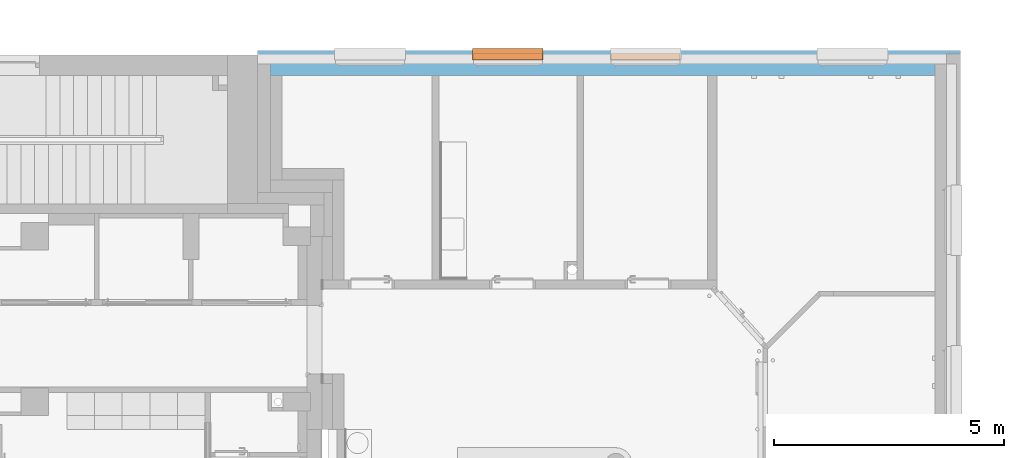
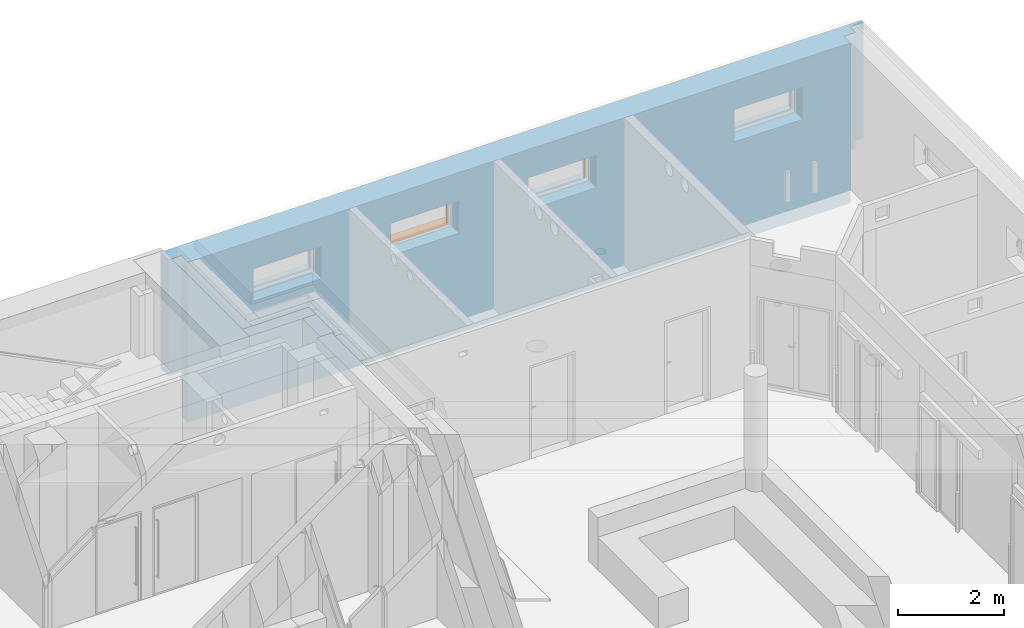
# One storey, part 123 of 140: 3 proxies, 4 openings, plus 1 element that does not belong to this part.
"""IFC4 building model written with IfcOpenShell, lengths in metres."""

from ifc_helpers import new_model, entity, si_unit, converted_unit, derived_unit, frame, origin, origin_with_axes, place, context, subcontext, project, spatial, polyline, outline, extrude, clip, bounded_halfspace, faceted_brep, source, transform, mapped, material, layer, layer_set, layer_usage, element, fill, save


model = new_model("IFC4")

# Units and contexts
model_context = context("Model", 3, precision=1e-05, world=origin())
body_context = subcontext(model_context, "Body", "Model", "MODEL_VIEW")
ifc_project = project(units=[si_unit("LENGTHUNIT", "METRE"), si_unit("AREAUNIT", "SQUARE_METRE"), si_unit("VOLUMEUNIT", "CUBIC_METRE"), si_unit("MASSUNIT", "GRAM", prefix="KILO"), converted_unit("PLANEANGLEUNIT", "DEGREE", entity("IfcPlaneAngleMeasure", 0.0174532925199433), si_unit("PLANEANGLEUNIT", "RADIAN"), dimensions=[0, 0, 0, 0, 0, 0, 0]), derived_unit("THERMALTRANSMITTANCEUNIT", [(si_unit("POWERUNIT", "WATT"), 1), (si_unit("THERMODYNAMICTEMPERATUREUNIT", "KELVIN"), -1), (si_unit("LENGTHUNIT", "METRE"), -2)]), derived_unit("VOLUMETRICFLOWRATEUNIT", [(si_unit("LENGTHUNIT", "METRE"), 3), (converted_unit("TIMEUNIT", "hour", entity("IfcTimeMeasure", 3600.0), si_unit("TIMEUNIT", "SECOND"), dimensions=[0, 0, 1, 0, 0, 0, 0]), -1), (si_unit("LENGTHUNIT", "METRE"), -1)])], contexts=[model_context])

# Site, building, storey
site_placement = place(None, origin())
site = spatial("IfcSite", under=ifc_project, at=site_placement, Name="3. ASŘ", CompositionType="ELEMENT")
building_placement = place(site_placement, origin())
building = spatial("IfcBuilding", under=site, at=building_placement, Name="Pavilon C", CompositionType="ELEMENT")
storey_placement = place(building_placement, origin())
storey = spatial("IfcBuildingStorey", under=building, at=storey_placement, Name="Půdorys 1.NP", CompositionType="ELEMENT", Elevation=0.0)

# Wall, openings, proxies
ifc_material_1 = material(Name="ZELEZOBETONOVÁ KCE")
ifc_layer_1 = layer(ifc_material_1, 0.25)
ifc_material_2 = material(Name="MINERÁLNÍ VATA")
ifc_layer_2 = layer(ifc_material_2, 0.3)
ifc_layer_set = layer_set([ifc_layer_1, ifc_layer_2])
ifc_layer_usage = layer_usage(ifc_layer_set, "AXIS2", "POSITIVE", 0.0)
wall_placement = place(storey_placement, frame((49.08, 32.3, -0.3)))
wall = element("IfcWall", 1, at=wall_placement, inside=storey, material=ifc_layer_usage, Name="ZELEZOBETONOVÁ KCE", context=body_context, shape_type="Clipping", body=[
    clip(extrude(outline(polyline([(0.280000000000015, 0.0), (14.75, 0.0), (14.75, 0.25), (15.0, 0.25), (15.0, 0.47), (15.3, 0.47), (15.3, 0.55), (0.0, 0.55), (0.0, 0.25), (0.280000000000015, 0.25), (0.280000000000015, 0.0)])), frame((-0.280000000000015, 0.0, 0.0), z_axis=(0.0, 0.0, 1.0), x_axis=(1.0, 0.0, 0.0)), (0.0, 0.0, 1.0), 3.7), bounded_halfspace(frame((9.17374999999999, 0.380000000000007, 1.02), z_axis=(0.0, 0.0, 1.0), x_axis=(0.0, -1.0, 0.0)), True, origin_with_axes(), polyline([(-0.280000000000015, 0.55), (-0.280000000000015, 0.250000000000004), (7.27595761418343e-15, 0.25), (14.47, 0.25), (14.72, 0.250000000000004), (14.72, 0.47), (15.02, 0.47), (15.02, 0.55), (-0.280000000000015, 0.55)]))),
])
opening_1_placement = place(wall_placement, frame((13.42, 0.25, 2.3), z_axis=(0.0, -1.0, 0.0), x_axis=(0.0, 0.0, 1.0)))
element("IfcOpeningElement", 2, at=opening_1_placement, cuts=wall, Name="Okenní otvor", ObjectType="Opening", context=body_context, shape_type="SweptSolid", body=[
    extrude(outline(polyline([(0.0, 1.5), (0.75, 1.5), (0.75, 0.0), (0.0, 0.0), (0.0, 1.5)])), origin_with_axes(), (0.0, 0.0, 1.0), 0.25),
    extrude(outline(polyline([(0.0, 1.5), (0.75, 1.5), (0.75, 0.0), (0.0, 0.0), (0.0, 1.5)])), frame((0.0, 0.0, -0.3), z_axis=(0.0, 0.0, 1.0), x_axis=(1.0, 0.0, 0.0)), (0.0, 0.0, 1.0), 0.3),
])
opening_2_placement = place(wall_placement, frame((8.92, 0.25, 2.3), z_axis=(0.0, -1.0, 0.0), x_axis=(0.0, 0.0, 1.0)))
opening_2 = element("IfcOpeningElement", 3, at=opening_2_placement, cuts=wall, Name="Okenní otvor", ObjectType="Opening", context=body_context, shape_type="SweptSolid", body=[
    extrude(outline(polyline([(0.0, 1.5), (0.75, 1.5), (0.75, 0.0), (0.0, 0.0), (0.0, 1.5)])), origin_with_axes(), (0.0, 0.0, 1.0), 0.25),
    extrude(outline(polyline([(0.0, 1.5), (0.75, 1.5), (0.75, 0.0), (0.0, 0.0), (0.0, 1.5)])), frame((0.0, 0.0, -0.3), z_axis=(0.0, 0.0, 1.0), x_axis=(1.0, 0.0, 0.0)), (0.0, 0.0, 1.0), 0.3),
])
opening_3_placement = place(wall_placement, frame((5.92, 0.25, 2.3), z_axis=(0.0, -1.0, 0.0), x_axis=(0.0, 0.0, 1.0)))
opening_3 = element("IfcOpeningElement", 4, at=opening_3_placement, cuts=wall, Name="Okenní otvor", ObjectType="Opening", context=body_context, shape_type="SweptSolid", body=[
    extrude(outline(polyline([(0.0, 1.5), (0.75, 1.5), (0.75, 0.0), (0.0, 0.0), (0.0, 1.5)])), origin_with_axes(), (0.0, 0.0, 1.0), 0.25),
    extrude(outline(polyline([(0.0, 1.5), (0.75, 1.5), (0.75, 0.0), (0.0, 0.0), (0.0, 1.5)])), frame((0.0, 0.0, -0.3), z_axis=(0.0, 0.0, 1.0), x_axis=(1.0, 0.0, 0.0)), (0.0, 0.0, 1.0), 0.3),
])
opening_4_placement = place(wall_placement, frame((2.92, 0.25, 2.3), z_axis=(0.0, -1.0, 0.0), x_axis=(0.0, 0.0, 1.0)))
element("IfcOpeningElement", 5, at=opening_4_placement, cuts=wall, Name="Okenní otvor", ObjectType="Opening", context=body_context, shape_type="SweptSolid", body=[
    extrude(outline(polyline([(0.0, 1.5), (0.75, 1.5), (0.75, 0.0), (0.0, 0.0), (0.0, 1.5)])), origin_with_axes(), (0.0, 0.0, 1.0), 0.25),
    extrude(outline(polyline([(0.0, 1.5), (0.75, 1.5), (0.75, 0.0), (0.0, 0.0), (0.0, 1.5)])), frame((0.0, 0.0, -0.3), z_axis=(0.0, 0.0, 1.0), x_axis=(1.0, 0.0, 0.0)), (0.0, 0.0, 1.0), 0.3),
])
shared_shape_1 = source(origin_with_axes(), body_context, "Body", "Brep", [
    faceted_brep([(1.5, -0.232, 0.75), (1.5, -0.232, 0.95), (1.5, -0.092, 0.95), (1.5, -0.092, 0.75), (1.5, -0.094, 0.75), (1.5, -0.094, 0.948), (1.5, -0.23, 0.948), (1.5, -0.23, 0.75), (0.0, -0.23, 0.75), (0.0, -0.23, 0.948), (0.0, -0.094, 0.948), (0.0, -0.094, 0.75), (0.0, -0.092, 0.75), (0.0, -0.092, 0.95), (0.0, -0.232, 0.95), (0.0, -0.232, 0.75)], [[[0, 1, 2, 3, 4, 5, 6, 7]], [[8, 9, 10, 11, 12, 13, 14, 15]], [[7, 8, 15, 0]], [[6, 9, 8, 7]], [[5, 10, 9, 6]], [[4, 11, 10, 5]], [[3, 12, 11, 4]], [[2, 13, 12, 3]], [[1, 14, 13, 2]], [[0, 15, 14, 1]]], orient=[[False], [False], [False], [False], [False], [False], [False], [False], [False], [False]]),
    faceted_brep([(1.5, -0.23, 0.75), (1.5, -0.23, 0.948), (1.5, -0.094, 0.948), (1.5, -0.094, 0.75), (1.498, -0.094, 0.75), (1.498, -0.094, 0.948), (1.498, -0.23, 0.948), (1.498, -0.23, 0.75)], [[[0, 1, 2, 3]], [[4, 5, 6, 7]], [[3, 4, 7, 0]], [[2, 5, 4, 3]], [[1, 6, 5, 2]], [[0, 7, 6, 1]]], orient=[[False], [False], [False], [False], [False], [False]]),
    faceted_brep([(0.002, -0.23, 0.75), (0.002, -0.23, 0.948), (0.002, -0.094, 0.948), (0.002, -0.094, 0.75), (0.0, -0.094, 0.75), (0.0, -0.094, 0.948), (0.0, -0.23, 0.948), (0.0, -0.23, 0.75)], [[[0, 1, 2, 3]], [[4, 5, 6, 7]], [[3, 4, 7, 0]], [[2, 5, 4, 3]], [[1, 6, 5, 2]], [[0, 7, 6, 1]]], orient=[[False], [False], [False], [False], [False], [False]]),
    faceted_brep([(1.498, -0.152, 0.0), (1.458, -0.152, 0.0), (1.458, -0.172, 0.0), (1.498, -0.172, 0.0), (1.498, -0.172, 0.769), (1.458, -0.172, 0.769), (1.458, -0.152, 0.769), (1.498, -0.152, 0.769)], [[[0, 1, 2, 3]], [[4, 5, 6, 7]], [[3, 4, 7, 0]], [[2, 5, 4, 3]], [[1, 6, 5, 2]], [[0, 7, 6, 1]]], orient=[[False], [False], [False], [False], [False], [False]]),
    faceted_brep([(0.042, -0.152, 0.0), (0.002, -0.152, 0.0), (0.002, -0.172, 0.0), (0.042, -0.172, 0.0), (0.042, -0.172, 0.769), (0.002, -0.172, 0.769), (0.002, -0.152, 0.769), (0.042, -0.152, 0.769)], [[[0, 1, 2, 3]], [[4, 5, 6, 7]], [[3, 4, 7, 0]], [[2, 5, 4, 3]], [[1, 6, 5, 2]], [[0, 7, 6, 1]]], orient=[[False], [False], [False], [False], [False], [False]]),
    faceted_brep([(1.458, -0.122, 0.6021), (1.458, -0.122, 0.5871), (1.458, -0.202, 0.5871), (1.458, -0.202, 0.6021), (0.042, -0.202, 0.6021), (0.042, -0.202, 0.5871), (0.042, -0.122, 0.5871), (0.042, -0.122, 0.6021)], [[[0, 1, 2, 3]], [[4, 5, 6, 7]], [[3, 4, 7, 0]], [[2, 5, 4, 3]], [[1, 6, 5, 2]], [[0, 7, 6, 1]]], orient=[[False], [False], [False], [False], [False], [False]]),
    faceted_brep([(1.458, -0.122, 0.6031), (1.458, -0.122, 0.6021), (1.458, -0.202, 0.6021), (1.458, -0.202, 0.6031), (0.042, -0.202, 0.6031), (0.042, -0.202, 0.6021), (0.042, -0.122, 0.6021), (0.042, -0.122, 0.6031)], [[[0, 1, 2, 3]], [[4, 5, 6, 7]], [[3, 4, 7, 0]], [[2, 5, 4, 3]], [[1, 6, 5, 2]], [[0, 7, 6, 1]]], orient=[[False], [False], [False], [False], [False], [False]]),
    faceted_brep([(1.458, -0.122, 0.6041), (1.458, -0.122, 0.6031), (1.458, -0.202, 0.6031), (1.458, -0.202, 0.6041), (0.042, -0.202, 0.6041), (0.042, -0.202, 0.6031), (0.042, -0.122, 0.6031), (0.042, -0.122, 0.6041)], [[[0, 1, 2, 3]], [[4, 5, 6, 7]], [[3, 4, 7, 0]], [[2, 5, 4, 3]], [[1, 6, 5, 2]], [[0, 7, 6, 1]]], orient=[[False], [False], [False], [False], [False], [False]]),
    faceted_brep([(1.458, -0.122, 0.6051), (1.458, -0.122, 0.6041), (1.458, -0.202, 0.6041), (1.458, -0.202, 0.6051), (0.042, -0.202, 0.6051), (0.042, -0.202, 0.6041), (0.042, -0.122, 0.6041), (0.042, -0.122, 0.6051)], [[[0, 1, 2, 3]], [[4, 5, 6, 7]], [[3, 4, 7, 0]], [[2, 5, 4, 3]], [[1, 6, 5, 2]], [[0, 7, 6, 1]]], orient=[[False], [False], [False], [False], [False], [False]]),
    faceted_brep([(1.458, -0.122, 0.6061), (1.458, -0.122, 0.6051), (1.458, -0.202, 0.6051), (1.458, -0.202, 0.6061), (0.042, -0.202, 0.6061), (0.042, -0.202, 0.6051), (0.042, -0.122, 0.6051), (0.042, -0.122, 0.6061)], [[[0, 1, 2, 3]], [[4, 5, 6, 7]], [[3, 4, 7, 0]], [[2, 5, 4, 3]], [[1, 6, 5, 2]], [[0, 7, 6, 1]]], orient=[[False], [False], [False], [False], [False], [False]]),
    faceted_brep([(1.458, -0.122, 0.6071), (1.458, -0.122, 0.6061), (1.458, -0.202, 0.6061), (1.458, -0.202, 0.6071), (0.042, -0.202, 0.6071), (0.042, -0.202, 0.6061), (0.042, -0.122, 0.6061), (0.042, -0.122, 0.6071)], [[[0, 1, 2, 3]], [[4, 5, 6, 7]], [[3, 4, 7, 0]], [[2, 5, 4, 3]], [[1, 6, 5, 2]], [[0, 7, 6, 1]]], orient=[[False], [False], [False], [False], [False], [False]]),
    faceted_brep([(1.458, -0.122, 0.6081), (1.458, -0.122, 0.6071), (1.458, -0.202, 0.6071), (1.458, -0.202, 0.6081), (0.042, -0.202, 0.6081), (0.042, -0.202, 0.6071), (0.042, -0.122, 0.6071), (0.042, -0.122, 0.6081)], [[[0, 1, 2, 3]], [[4, 5, 6, 7]], [[3, 4, 7, 0]], [[2, 5, 4, 3]], [[1, 6, 5, 2]], [[0, 7, 6, 1]]], orient=[[False], [False], [False], [False], [False], [False]]),
    faceted_brep([(1.458, -0.122, 0.6091), (1.458, -0.122, 0.6081), (1.458, -0.202, 0.6081), (1.458, -0.202, 0.6091), (0.042, -0.202, 0.6091), (0.042, -0.202, 0.6081), (0.042, -0.122, 0.6081), (0.042, -0.122, 0.6091)], [[[0, 1, 2, 3]], [[4, 5, 6, 7]], [[3, 4, 7, 0]], [[2, 5, 4, 3]], [[1, 6, 5, 2]], [[0, 7, 6, 1]]], orient=[[False], [False], [False], [False], [False], [False]]),
    faceted_brep([(1.458, -0.122, 0.6101), (1.458, -0.122, 0.6091), (1.458, -0.202, 0.6091), (1.458, -0.202, 0.6101), (0.042, -0.202, 0.6101), (0.042, -0.202, 0.6091), (0.042, -0.122, 0.6091), (0.042, -0.122, 0.6101)], [[[0, 1, 2, 3]], [[4, 5, 6, 7]], [[3, 4, 7, 0]], [[2, 5, 4, 3]], [[1, 6, 5, 2]], [[0, 7, 6, 1]]], orient=[[False], [False], [False], [False], [False], [False]]),
    faceted_brep([(1.458, -0.122, 0.6111), (1.458, -0.122, 0.6101), (1.458, -0.202, 0.6101), (1.458, -0.202, 0.6111), (0.042, -0.202, 0.6111), (0.042, -0.202, 0.6101), (0.042, -0.122, 0.6101), (0.042, -0.122, 0.6111)], [[[0, 1, 2, 3]], [[4, 5, 6, 7]], [[3, 4, 7, 0]], [[2, 5, 4, 3]], [[1, 6, 5, 2]], [[0, 7, 6, 1]]], orient=[[False], [False], [False], [False], [False], [False]]),
    faceted_brep([(1.458, -0.122, 0.6121), (1.458, -0.122, 0.6111), (1.458, -0.202, 0.6111), (1.458, -0.202, 0.6121), (0.042, -0.202, 0.6121), (0.042, -0.202, 0.6111), (0.042, -0.122, 0.6111), (0.042, -0.122, 0.6121)], [[[0, 1, 2, 3]], [[4, 5, 6, 7]], [[3, 4, 7, 0]], [[2, 5, 4, 3]], [[1, 6, 5, 2]], [[0, 7, 6, 1]]], orient=[[False], [False], [False], [False], [False], [False]]),
    faceted_brep([(1.458, -0.122, 0.6131), (1.458, -0.122, 0.6121), (1.458, -0.202, 0.6121), (1.458, -0.202, 0.6131), (0.042, -0.202, 0.6131), (0.042, -0.202, 0.6121), (0.042, -0.122, 0.6121), (0.042, -0.122, 0.6131)], [[[0, 1, 2, 3]], [[4, 5, 6, 7]], [[3, 4, 7, 0]], [[2, 5, 4, 3]], [[1, 6, 5, 2]], [[0, 7, 6, 1]]], orient=[[False], [False], [False], [False], [False], [False]]),
    faceted_brep([(1.458, -0.122, 0.6141), (1.458, -0.122, 0.6131), (1.458, -0.202, 0.6131), (1.458, -0.202, 0.6141), (0.042, -0.202, 0.6141), (0.042, -0.202, 0.6131), (0.042, -0.122, 0.6131), (0.042, -0.122, 0.6141)], [[[0, 1, 2, 3]], [[4, 5, 6, 7]], [[3, 4, 7, 0]], [[2, 5, 4, 3]], [[1, 6, 5, 2]], [[0, 7, 6, 1]]], orient=[[False], [False], [False], [False], [False], [False]]),
    faceted_brep([(1.458, -0.122, 0.6151), (1.458, -0.122, 0.6141), (1.458, -0.202, 0.6141), (1.458, -0.202, 0.6151), (0.042, -0.202, 0.6151), (0.042, -0.202, 0.6141), (0.042, -0.122, 0.6141), (0.042, -0.122, 0.6151)], [[[0, 1, 2, 3]], [[4, 5, 6, 7]], [[3, 4, 7, 0]], [[2, 5, 4, 3]], [[1, 6, 5, 2]], [[0, 7, 6, 1]]], orient=[[False], [False], [False], [False], [False], [False]]),
    faceted_brep([(1.458, -0.122, 0.6161), (1.458, -0.122, 0.6151), (1.458, -0.202, 0.6151), (1.458, -0.202, 0.6161), (0.042, -0.202, 0.6161), (0.042, -0.202, 0.6151), (0.042, -0.122, 0.6151), (0.042, -0.122, 0.6161)], [[[0, 1, 2, 3]], [[4, 5, 6, 7]], [[3, 4, 7, 0]], [[2, 5, 4, 3]], [[1, 6, 5, 2]], [[0, 7, 6, 1]]], orient=[[False], [False], [False], [False], [False], [False]]),
    faceted_brep([(1.458, -0.123299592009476, 0.645125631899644), (1.458, -0.12305858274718, 0.644155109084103), (1.458, -0.200700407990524, 0.624874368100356), (1.458, -0.20094141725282, 0.625844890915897), (0.042, -0.20094141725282, 0.625844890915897), (0.042, -0.200700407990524, 0.624874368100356), (0.042, -0.12305858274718, 0.644155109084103), (0.042, -0.123299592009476, 0.645125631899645)], [[[0, 1, 2, 3]], [[4, 5, 6, 7]], [[3, 4, 7, 0]], [[2, 5, 4, 3]], [[1, 6, 5, 2]], [[0, 7, 6, 1]]], orient=[[False], [False], [False], [False], [False], [False]]),
    faceted_brep([(1.458, -0.127608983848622, 0.700433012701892), (1.458, -0.127108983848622, 0.699566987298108), (1.458, -0.196391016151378, 0.659566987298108), (1.458, -0.196891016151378, 0.660433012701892), (0.042, -0.196891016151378, 0.660433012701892), (0.042, -0.196391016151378, 0.659566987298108), (0.042, -0.127108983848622, 0.699566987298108), (0.042, -0.127608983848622, 0.700433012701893)], [[[0, 1, 2, 3]], [[4, 5, 6, 7]], [[3, 4, 7, 0]], [[2, 5, 4, 3]], [[1, 6, 5, 2]], [[0, 7, 6, 1]]], orient=[[False], [False], [False], [False], [False], [False]]),
    faceted_brep([(1.458, -0.127608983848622, 0.745433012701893), (1.458, -0.127108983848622, 0.744566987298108), (1.458, -0.196391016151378, 0.704566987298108), (1.458, -0.196891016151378, 0.705433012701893), (0.042, -0.196891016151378, 0.705433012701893), (0.042, -0.196391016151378, 0.704566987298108), (0.042, -0.127108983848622, 0.744566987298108), (0.042, -0.127608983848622, 0.745433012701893)], [[[0, 1, 2, 3]], [[4, 5, 6, 7]], [[3, 4, 7, 0]], [[2, 5, 4, 3]], [[1, 6, 5, 2]], [[0, 7, 6, 1]]], orient=[[False], [False], [False], [False], [False], [False]]),
])
proxy_1_placement = place(opening_2_placement, frame((0.0, 0.0, 0.0), z_axis=(1.0, 0.0, 0.0), x_axis=(0.0, 1.0, 0.0)))
proxy_1 = element("IfcBuildingElementProxy", 6, at=proxy_1_placement, inside=storey, Name="Žaluzie", context=body_context, shape_type="MappedRepresentation", body=[
    mapped(shared_shape_1, transform((0.0, 0.0, 0.0), x_axis=(1.0, 0.0, 0.0), y_axis=(0.0, 1.0, 0.0), z_axis=(0.0, 0.0, 1.0), scale=1.0)),
])
fill(opening_2, proxy_1)
ifc_material_3 = material(Name="HLINÍKOVÝ PLECH ELOXOVANÝ")
shared_shape_2 = source(origin_with_axes(), body_context, "Body", "Brep", [
    faceted_brep([(0.0, -0.3, 0.0), (0.0, -0.092, 0.0), (0.0, -0.092, 0.005), (0.0, -0.3, 0.005), (1.5, -0.3, 0.0), (1.5, -0.3, 0.005), (1.5, -0.092, 0.005), (1.5, -0.092, 0.0), (-0.02, -0.3, 0.0), (-0.02, -0.335, 0.0), (1.52, -0.335, 0.0), (1.52, -0.3, 0.0), (1.52, -0.3, 0.005), (1.52, -0.34, 0.005), (-0.02, -0.34, 0.005), (-0.02, -0.3, 0.005), (-0.02, -0.34, -0.025), (-0.02, -0.335, -0.025), (1.52, -0.335, -0.025), (1.52, -0.34, -0.025)], [[[0, 1, 2, 3]], [[4, 5, 6, 7]], [[1, 0, 8, 9, 10, 11, 4, 7]], [[2, 1, 7, 6]], [[3, 2, 6, 5, 12, 13, 14, 15]], [[8, 15, 14, 16, 17, 9]], [[11, 10, 18, 19, 13, 12]], [[15, 8, 0, 3]], [[5, 4, 11, 12]], [[16, 14, 13, 19]], [[17, 16, 19, 18]], [[9, 17, 18, 10]]], orient=[[False], [False], [False], [False], [False], [False], [False], [False], [False], [False], [False], [False]]),
    faceted_brep([(-0.02, -0.3, 0.0), (-0.02, -0.092, 0.0), (-0.02, -0.092, 0.005), (-0.02, -0.3, 0.005), (0.0, -0.3, 0.0), (0.0, -0.3, 0.005), (0.0, -0.092, 0.005), (0.0, -0.092, 0.0)], [[[0, 1, 2, 3]], [[4, 5, 6, 7]], [[1, 0, 4, 7]], [[2, 1, 7, 6]], [[3, 2, 6, 5]], [[0, 3, 5, 4]]], orient=[[False], [False], [False], [False], [False], [False]]),
    faceted_brep([(1.5, -0.3, 0.0), (1.5, -0.092, 0.0), (1.5, -0.092, 0.005), (1.5, -0.3, 0.005), (1.52, -0.3, 0.0), (1.52, -0.3, 0.005), (1.52, -0.092, 0.005), (1.52, -0.092, 0.0)], [[[0, 1, 2, 3]], [[4, 5, 6, 7]], [[1, 0, 4, 7]], [[2, 1, 7, 6]], [[3, 2, 6, 5]], [[0, 3, 5, 4]]], orient=[[False], [False], [False], [False], [False], [False]]),
])
proxy_2_placement = place(opening_3_placement, frame((0.0, 0.0, 0.0), z_axis=(1.0, 0.0, 0.0), x_axis=(0.0, 1.0, 0.0)))
proxy_2 = element("IfcBuildingElementProxy", 7, at=proxy_2_placement, inside=storey, material=ifc_material_3, Name="Parapet vnější", context=body_context, shape_type="MappedRepresentation", body=[
    mapped(shared_shape_2, transform((0.0, 0.0, 0.0), x_axis=(1.0, 0.0, 0.0), y_axis=(0.0, 1.0, 0.0), z_axis=(0.0, 0.0, 1.0), scale=1.0)),
])
fill(opening_3, proxy_2)
shared_shape_3 = source(origin_with_axes(), body_context, "Body", "Brep", [
    faceted_brep([(1.5, -0.232, 0.75), (1.5, -0.232, 0.95), (1.5, -0.092, 0.95), (1.5, -0.092, 0.75), (1.5, -0.094, 0.75), (1.5, -0.094, 0.948), (1.5, -0.23, 0.948), (1.5, -0.23, 0.75), (0.0, -0.23, 0.75), (0.0, -0.23, 0.948), (0.0, -0.094, 0.948), (0.0, -0.094, 0.75), (0.0, -0.092, 0.75), (0.0, -0.092, 0.95), (0.0, -0.232, 0.95), (0.0, -0.232, 0.75)], [[[0, 1, 2, 3, 4, 5, 6, 7]], [[8, 9, 10, 11, 12, 13, 14, 15]], [[7, 8, 15, 0]], [[6, 9, 8, 7]], [[5, 10, 9, 6]], [[4, 11, 10, 5]], [[3, 12, 11, 4]], [[2, 13, 12, 3]], [[1, 14, 13, 2]], [[0, 15, 14, 1]]], orient=[[False], [False], [False], [False], [False], [False], [False], [False], [False], [False]]),
    faceted_brep([(1.5, -0.23, 0.75), (1.5, -0.23, 0.948), (1.5, -0.094, 0.948), (1.5, -0.094, 0.75), (1.498, -0.094, 0.75), (1.498, -0.094, 0.948), (1.498, -0.23, 0.948), (1.498, -0.23, 0.75)], [[[0, 1, 2, 3]], [[4, 5, 6, 7]], [[3, 4, 7, 0]], [[2, 5, 4, 3]], [[1, 6, 5, 2]], [[0, 7, 6, 1]]], orient=[[False], [False], [False], [False], [False], [False]]),
    faceted_brep([(0.002, -0.23, 0.75), (0.002, -0.23, 0.948), (0.002, -0.094, 0.948), (0.002, -0.094, 0.75), (0.0, -0.094, 0.75), (0.0, -0.094, 0.948), (0.0, -0.23, 0.948), (0.0, -0.23, 0.75)], [[[0, 1, 2, 3]], [[4, 5, 6, 7]], [[3, 4, 7, 0]], [[2, 5, 4, 3]], [[1, 6, 5, 2]], [[0, 7, 6, 1]]], orient=[[False], [False], [False], [False], [False], [False]]),
    faceted_brep([(1.498, -0.152, 0.0), (1.458, -0.152, 0.0), (1.458, -0.172, 0.0), (1.498, -0.172, 0.0), (1.498, -0.172, 0.769), (1.458, -0.172, 0.769), (1.458, -0.152, 0.769), (1.498, -0.152, 0.769)], [[[0, 1, 2, 3]], [[4, 5, 6, 7]], [[3, 4, 7, 0]], [[2, 5, 4, 3]], [[1, 6, 5, 2]], [[0, 7, 6, 1]]], orient=[[False], [False], [False], [False], [False], [False]]),
    faceted_brep([(0.042, -0.152, 0.0), (0.002, -0.152, 0.0), (0.002, -0.172, 0.0), (0.042, -0.172, 0.0), (0.042, -0.172, 0.769), (0.002, -0.172, 0.769), (0.002, -0.152, 0.769), (0.042, -0.152, 0.769)], [[[0, 1, 2, 3]], [[4, 5, 6, 7]], [[3, 4, 7, 0]], [[2, 5, 4, 3]], [[1, 6, 5, 2]], [[0, 7, 6, 1]]], orient=[[False], [False], [False], [False], [False], [False]]),
    faceted_brep([(1.458, -0.122, 0.6021), (1.458, -0.122, 0.5871), (1.458, -0.202, 0.5871), (1.458, -0.202, 0.6021), (0.042, -0.202, 0.6021), (0.042, -0.202, 0.5871), (0.042, -0.122, 0.5871), (0.042, -0.122, 0.6021)], [[[0, 1, 2, 3]], [[4, 5, 6, 7]], [[3, 4, 7, 0]], [[2, 5, 4, 3]], [[1, 6, 5, 2]], [[0, 7, 6, 1]]], orient=[[False], [False], [False], [False], [False], [False]]),
    faceted_brep([(1.458, -0.122, 0.6031), (1.458, -0.122, 0.6021), (1.458, -0.202, 0.6021), (1.458, -0.202, 0.6031), (0.042, -0.202, 0.6031), (0.042, -0.202, 0.6021), (0.042, -0.122, 0.6021), (0.042, -0.122, 0.6031)], [[[0, 1, 2, 3]], [[4, 5, 6, 7]], [[3, 4, 7, 0]], [[2, 5, 4, 3]], [[1, 6, 5, 2]], [[0, 7, 6, 1]]], orient=[[False], [False], [False], [False], [False], [False]]),
    faceted_brep([(1.458, -0.122, 0.6041), (1.458, -0.122, 0.6031), (1.458, -0.202, 0.6031), (1.458, -0.202, 0.6041), (0.042, -0.202, 0.6041), (0.042, -0.202, 0.6031), (0.042, -0.122, 0.6031), (0.042, -0.122, 0.6041)], [[[0, 1, 2, 3]], [[4, 5, 6, 7]], [[3, 4, 7, 0]], [[2, 5, 4, 3]], [[1, 6, 5, 2]], [[0, 7, 6, 1]]], orient=[[False], [False], [False], [False], [False], [False]]),
    faceted_brep([(1.458, -0.122, 0.6051), (1.458, -0.122, 0.6041), (1.458, -0.202, 0.6041), (1.458, -0.202, 0.6051), (0.042, -0.202, 0.6051), (0.042, -0.202, 0.6041), (0.042, -0.122, 0.6041), (0.042, -0.122, 0.6051)], [[[0, 1, 2, 3]], [[4, 5, 6, 7]], [[3, 4, 7, 0]], [[2, 5, 4, 3]], [[1, 6, 5, 2]], [[0, 7, 6, 1]]], orient=[[False], [False], [False], [False], [False], [False]]),
    faceted_brep([(1.458, -0.122, 0.6061), (1.458, -0.122, 0.6051), (1.458, -0.202, 0.6051), (1.458, -0.202, 0.6061), (0.042, -0.202, 0.6061), (0.042, -0.202, 0.6051), (0.042, -0.122, 0.6051), (0.042, -0.122, 0.6061)], [[[0, 1, 2, 3]], [[4, 5, 6, 7]], [[3, 4, 7, 0]], [[2, 5, 4, 3]], [[1, 6, 5, 2]], [[0, 7, 6, 1]]], orient=[[False], [False], [False], [False], [False], [False]]),
    faceted_brep([(1.458, -0.122, 0.6071), (1.458, -0.122, 0.6061), (1.458, -0.202, 0.6061), (1.458, -0.202, 0.6071), (0.042, -0.202, 0.6071), (0.042, -0.202, 0.6061), (0.042, -0.122, 0.6061), (0.042, -0.122, 0.6071)], [[[0, 1, 2, 3]], [[4, 5, 6, 7]], [[3, 4, 7, 0]], [[2, 5, 4, 3]], [[1, 6, 5, 2]], [[0, 7, 6, 1]]], orient=[[False], [False], [False], [False], [False], [False]]),
    faceted_brep([(1.458, -0.122, 0.6081), (1.458, -0.122, 0.6071), (1.458, -0.202, 0.6071), (1.458, -0.202, 0.6081), (0.042, -0.202, 0.6081), (0.042, -0.202, 0.6071), (0.042, -0.122, 0.6071), (0.042, -0.122, 0.6081)], [[[0, 1, 2, 3]], [[4, 5, 6, 7]], [[3, 4, 7, 0]], [[2, 5, 4, 3]], [[1, 6, 5, 2]], [[0, 7, 6, 1]]], orient=[[False], [False], [False], [False], [False], [False]]),
    faceted_brep([(1.458, -0.122, 0.6091), (1.458, -0.122, 0.6081), (1.458, -0.202, 0.6081), (1.458, -0.202, 0.6091), (0.042, -0.202, 0.6091), (0.042, -0.202, 0.6081), (0.042, -0.122, 0.6081), (0.042, -0.122, 0.6091)], [[[0, 1, 2, 3]], [[4, 5, 6, 7]], [[3, 4, 7, 0]], [[2, 5, 4, 3]], [[1, 6, 5, 2]], [[0, 7, 6, 1]]], orient=[[False], [False], [False], [False], [False], [False]]),
    faceted_brep([(1.458, -0.122, 0.6101), (1.458, -0.122, 0.6091), (1.458, -0.202, 0.6091), (1.458, -0.202, 0.6101), (0.042, -0.202, 0.6101), (0.042, -0.202, 0.6091), (0.042, -0.122, 0.6091), (0.042, -0.122, 0.6101)], [[[0, 1, 2, 3]], [[4, 5, 6, 7]], [[3, 4, 7, 0]], [[2, 5, 4, 3]], [[1, 6, 5, 2]], [[0, 7, 6, 1]]], orient=[[False], [False], [False], [False], [False], [False]]),
    faceted_brep([(1.458, -0.122, 0.6111), (1.458, -0.122, 0.6101), (1.458, -0.202, 0.6101), (1.458, -0.202, 0.6111), (0.042, -0.202, 0.6111), (0.042, -0.202, 0.6101), (0.042, -0.122, 0.6101), (0.042, -0.122, 0.6111)], [[[0, 1, 2, 3]], [[4, 5, 6, 7]], [[3, 4, 7, 0]], [[2, 5, 4, 3]], [[1, 6, 5, 2]], [[0, 7, 6, 1]]], orient=[[False], [False], [False], [False], [False], [False]]),
    faceted_brep([(1.458, -0.122, 0.6121), (1.458, -0.122, 0.6111), (1.458, -0.202, 0.6111), (1.458, -0.202, 0.6121), (0.042, -0.202, 0.6121), (0.042, -0.202, 0.6111), (0.042, -0.122, 0.6111), (0.042, -0.122, 0.6121)], [[[0, 1, 2, 3]], [[4, 5, 6, 7]], [[3, 4, 7, 0]], [[2, 5, 4, 3]], [[1, 6, 5, 2]], [[0, 7, 6, 1]]], orient=[[False], [False], [False], [False], [False], [False]]),
    faceted_brep([(1.458, -0.122, 0.6131), (1.458, -0.122, 0.6121), (1.458, -0.202, 0.6121), (1.458, -0.202, 0.6131), (0.042, -0.202, 0.6131), (0.042, -0.202, 0.6121), (0.042, -0.122, 0.6121), (0.042, -0.122, 0.6131)], [[[0, 1, 2, 3]], [[4, 5, 6, 7]], [[3, 4, 7, 0]], [[2, 5, 4, 3]], [[1, 6, 5, 2]], [[0, 7, 6, 1]]], orient=[[False], [False], [False], [False], [False], [False]]),
    faceted_brep([(1.458, -0.122, 0.6141), (1.458, -0.122, 0.6131), (1.458, -0.202, 0.6131), (1.458, -0.202, 0.6141), (0.042, -0.202, 0.6141), (0.042, -0.202, 0.6131), (0.042, -0.122, 0.6131), (0.042, -0.122, 0.6141)], [[[0, 1, 2, 3]], [[4, 5, 6, 7]], [[3, 4, 7, 0]], [[2, 5, 4, 3]], [[1, 6, 5, 2]], [[0, 7, 6, 1]]], orient=[[False], [False], [False], [False], [False], [False]]),
    faceted_brep([(1.458, -0.122, 0.6151), (1.458, -0.122, 0.6141), (1.458, -0.202, 0.6141), (1.458, -0.202, 0.6151), (0.042, -0.202, 0.6151), (0.042, -0.202, 0.6141), (0.042, -0.122, 0.6141), (0.042, -0.122, 0.6151)], [[[0, 1, 2, 3]], [[4, 5, 6, 7]], [[3, 4, 7, 0]], [[2, 5, 4, 3]], [[1, 6, 5, 2]], [[0, 7, 6, 1]]], orient=[[False], [False], [False], [False], [False], [False]]),
    faceted_brep([(1.458, -0.122, 0.6161), (1.458, -0.122, 0.6151), (1.458, -0.202, 0.6151), (1.458, -0.202, 0.6161), (0.042, -0.202, 0.6161), (0.042, -0.202, 0.6151), (0.042, -0.122, 0.6151), (0.042, -0.122, 0.6161)], [[[0, 1, 2, 3]], [[4, 5, 6, 7]], [[3, 4, 7, 0]], [[2, 5, 4, 3]], [[1, 6, 5, 2]], [[0, 7, 6, 1]]], orient=[[False], [False], [False], [False], [False], [False]]),
    faceted_brep([(1.458, -0.123299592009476, 0.645125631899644), (1.458, -0.12305858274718, 0.644155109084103), (1.458, -0.200700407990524, 0.624874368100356), (1.458, -0.20094141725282, 0.625844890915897), (0.042, -0.20094141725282, 0.625844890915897), (0.042, -0.200700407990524, 0.624874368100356), (0.042, -0.12305858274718, 0.644155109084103), (0.042, -0.123299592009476, 0.645125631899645)], [[[0, 1, 2, 3]], [[4, 5, 6, 7]], [[3, 4, 7, 0]], [[2, 5, 4, 3]], [[1, 6, 5, 2]], [[0, 7, 6, 1]]], orient=[[False], [False], [False], [False], [False], [False]]),
    faceted_brep([(1.458, -0.127608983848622, 0.700433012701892), (1.458, -0.127108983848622, 0.699566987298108), (1.458, -0.196391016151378, 0.659566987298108), (1.458, -0.196891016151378, 0.660433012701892), (0.042, -0.196891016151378, 0.660433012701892), (0.042, -0.196391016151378, 0.659566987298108), (0.042, -0.127108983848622, 0.699566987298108), (0.042, -0.127608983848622, 0.700433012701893)], [[[0, 1, 2, 3]], [[4, 5, 6, 7]], [[3, 4, 7, 0]], [[2, 5, 4, 3]], [[1, 6, 5, 2]], [[0, 7, 6, 1]]], orient=[[False], [False], [False], [False], [False], [False]]),
    faceted_brep([(1.458, -0.127608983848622, 0.745433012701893), (1.458, -0.127108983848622, 0.744566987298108), (1.458, -0.196391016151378, 0.704566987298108), (1.458, -0.196891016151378, 0.705433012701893), (0.042, -0.196891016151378, 0.705433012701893), (0.042, -0.196391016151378, 0.704566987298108), (0.042, -0.127108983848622, 0.744566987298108), (0.042, -0.127608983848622, 0.745433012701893)], [[[0, 1, 2, 3]], [[4, 5, 6, 7]], [[3, 4, 7, 0]], [[2, 5, 4, 3]], [[1, 6, 5, 2]], [[0, 7, 6, 1]]], orient=[[False], [False], [False], [False], [False], [False]]),
])
proxy_3_placement = place(opening_3_placement, frame((0.0, 0.0, 0.0), z_axis=(1.0, 0.0, 0.0), x_axis=(0.0, 1.0, 0.0)))
proxy_3 = element("IfcBuildingElementProxy", 8, at=proxy_3_placement, inside=storey, Name="Žaluzie", context=body_context, shape_type="MappedRepresentation", body=[
    mapped(shared_shape_3, transform((0.0, 0.0, 0.0), x_axis=(1.0, 0.0, 0.0), y_axis=(0.0, 1.0, 0.0), z_axis=(0.0, 0.0, 1.0), scale=1.0)),
])
fill(opening_3, proxy_3)

save(model, "model.ifc")
